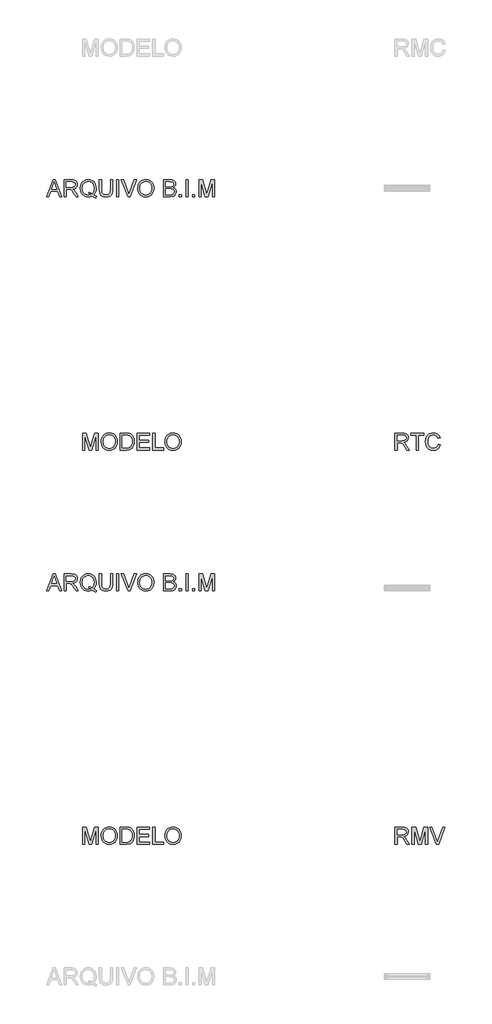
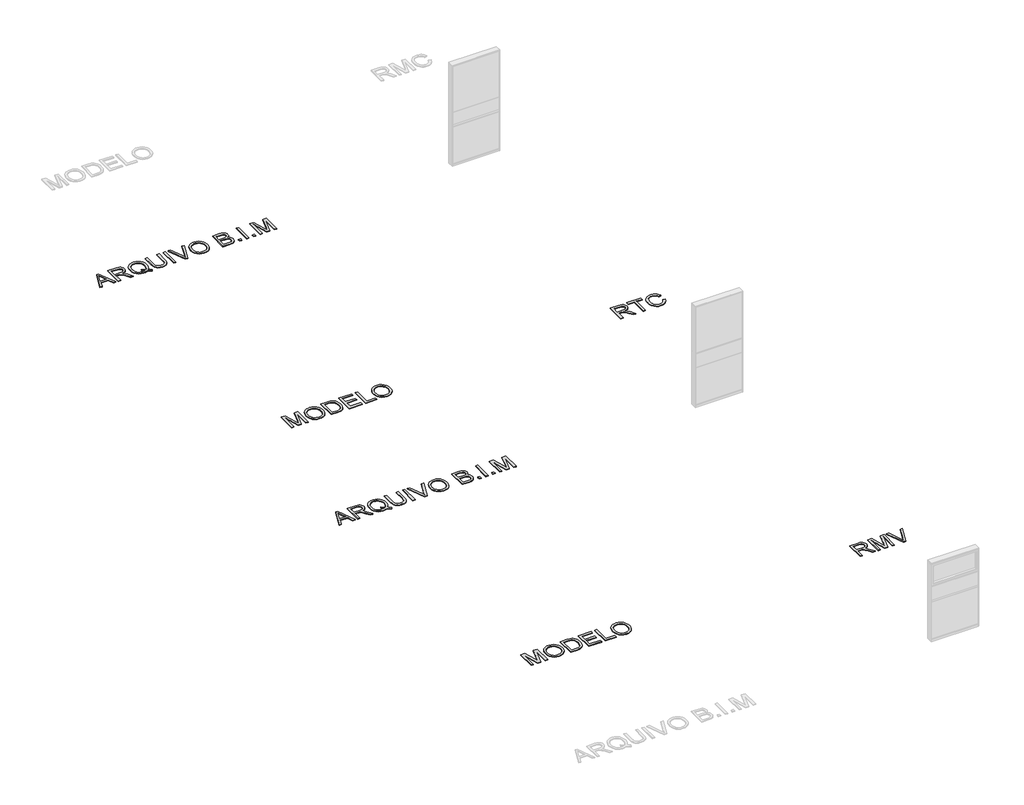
# One storey, part 8 of 15: 6 proxies.
"""IFC4 building model written with IfcOpenShell, lengths in millimetres."""

from ifc_helpers import new_model, si_unit, origin, origin_with_axes, place, context, project, spatial, polyline, outline, extrude, element, save

model = new_model("IFC4")

# Units and contexts
model_context = context("Model", 3, world=origin())
ifc_project = project(units=[si_unit("LENGTHUNIT", "METRE", prefix="MILLI")], contexts=[model_context])

# Site, building, storey
site = spatial("IfcSite", under=ifc_project)
building = spatial("IfcBuilding", under=site)
storey = spatial("IfcBuildingStorey", under=building, Name="Marelli - Linha REASONS - Planta Baixa", Elevation=0.0)

# Proxies
placement = place(None, origin())
element("IfcBuildingElementProxy", 1, Name="300mm Arial", ObjectType="300mm Arial", at=placement, inside=storey, context=model_context, shape_type="SweptSolid", body=[
    extrude(outline(polyline([(9390.580402, -84280.5663201), (9510.8778144, -83979.1973896), (9542.9571244, -83979.1973896), (9663.2545368, -84280.5663201), (9623.449705, -84280.5663201), (9588.9423738, -84186.3885293), (9464.8189886, -84186.3885293), (9430.3852339, -84280.5663201), (9390.580402, -84280.5663201)]), holes=[polyline([(9478.6513517, -84148.717413), (9575.1835872, -84148.717413), (9548.0338959, -84074.6259792), (9526.9174694, -84016.8685059), (9508.1554877, -84068.1512561), (9478.6513517, -84148.717413)])]), origin_with_axes(), (0.0, 0.0, 1.0), 10.0),
    extrude(outline(polyline([(9703.5008271, -84280.5663201), (9703.5008271, -83979.1973896), (9833.3631714, -83979.1973896), (9868.2659757, -83981.2299376), (9893.6590304, -83987.3275817), (9912.2186771, -83998.5847708), (9926.6212572, -84016.0959537), (9935.8642923, -84037.8101885), (9938.945304, -84061.6765329), (9933.8409413, -84091.3646099), (9918.5278533, -84115.9759154), (9906.9280741, -84126.0052983), (9892.5461874, -84134.0205273), (9855.4360911, -84144.0085235), (9876.8468232, -84160.1217548), (9907.3810288, -84198.8965171), (9957.6337094, -84280.5663201), (9913.855752, -84280.5663201), (9874.6395313, -84218.0999573), (9846.3126176, -84176.750021), (9826.4102017, -84157.2154871), (9808.4943485, -84150.0417882), (9786.642158, -84148.717413), (9741.1719434, -84148.717413), (9741.1719434, -84280.5663201), (9703.5008271, -84280.5663201)]), holes=[polyline([(9741.1719434, -84111.0462967), (9825.4904967, -84111.0462967), (9849.706329, -84109.7127245), (9868.4959019, -84105.7120078), (9882.6409647, -84098.7774322), (9892.9232664, -84088.6422832), (9899.1864574, -84076.3826157), (9901.2741877, -84063.0744845), (9897.2918651, -84044.6987789), (9885.3448973, -84029.8915286), (9864.7894908, -84020.1242616), (9834.9818522, -84016.8685059), (9741.1719434, -84016.8685059), (9741.1719434, -84111.0462967)])]), origin_with_axes(), (0.0, 0.0, 1.0), 10.0),
    extrude(outline(polyline([(10231.2643374, -84244.4403081), (10255.5997314, -84263.036743), (10277.9853508, -84275.8574305), (10267.8318077, -84303.4485802), (10236.7641732, -84289.0460001), (10205.8069033, -84268.205485), (10170.9500843, -84281.0077785), (10132.5983863, -84285.2752096), (10094.0627473, -84280.3547879), (10059.2427164, -84265.5935229), (10030.0788713, -84241.9203165), (10008.5117893, -84210.2640708), (9995.185264, -84172.3630282), (9990.7430889, -84129.9554312), (9995.176067, -84087.511046), (10008.4750011, -84049.0581805), (10029.9593096, -84016.9512794), (10058.9484108, -83993.5447874), (10093.639683, -83979.2525719), (10132.2305043, -83974.4885001), (10171.1248282, -83979.3629365), (10205.9908443, -83993.9862458), (10234.9339603, -84017.3835407), (10256.0595839, -84048.5799339), (10268.9722419, -84085.9199564), (10273.2764612, -84127.7481393), (10270.6644991, -84162.5313819), (10262.8286126, -84193.5990164), (10249.7136194, -84220.9142546), (10231.2643374, -84244.4403081)]), holes=[polyline([(10142.9726585, -84194.3347804), (10174.6472983, -84206.3093393), (10200.215097, -84222.9559996), (10215.6983305, -84205.4816049), (10226.7577829, -84184.1076609), (10233.3934544, -84158.8341679), (10235.6053449, -84129.6611256), (10232.478348, -84096.5057608), (10223.0973571, -84067.8201623), (10207.6922985, -84044.3308969), (10186.4930986, -84026.7645316), (10160.934497, -84015.8108452), (10132.4512335, -84012.1596164), (10110.966925, -84014.0059242), (10091.3956028, -84019.5448474), (10073.7372671, -84028.7763863), (10057.9919177, -84041.7005406), (10045.0516685, -84058.2897193), (10035.8086334, -84078.5163313), (10030.2628123, -84102.3803764), (10028.4142052, -84129.8818548), (10030.2421189, -84156.6659634), (10035.7258599, -84180.1437324), (10044.8654282, -84200.3151621), (10057.6608239, -84217.1802523), (10073.2981079, -84230.4906827), (10090.9633415, -84239.9981331), (10110.6565245, -84245.7026032), (10132.3776571, -84247.6040933), (10153.2917485, -84245.6727128), (10172.918253, -84239.8785714), (10153.6228423, -84229.853787), (10133.2605739, -84223.1767288), (10142.9726585, -84194.3347804)])]), origin_with_axes(), (0.0, 0.0, 1.0), 10.0),
    extrude(outline(polyline([(10527.5564963, -83979.1973896), (10565.2276126, -83979.1973896), (10565.2276126, -84153.0584205), (10562.6708327, -84193.7737604), (10555.0004931, -84225.1265034), (10540.6714894, -84249.3147446), (10518.1387172, -84268.5365788), (10487.3469942, -84281.0905519), (10448.2411381, -84285.2752096), (10409.9906077, -84281.6331779), (10379.4104168, -84270.7070826), (10356.4913685, -84252.8740029), (10341.2242657, -84228.5110178), (10332.6434182, -84195.8338995), (10329.7831357, -84153.0584205), (10329.7831357, -83979.1973896), (10367.454252, -83979.1973896), (10367.454252, -84151.7340454), (10369.3120561, -84185.588386), (10374.8854683, -84209.1604248), (10384.9838291, -84225.4851883), (10400.4164788, -84237.597703), (10420.5396239, -84245.1024957), (10444.709471, -84247.6040933), (10483.0243808, -84242.6560805), (10497.3671801, -84236.4710644), (10508.500209, -84227.812042), (10516.8373347, -84215.6351479), (10522.7924245, -84198.8965171), (10527.5564963, -84151.7340454), (10527.5564963, -83979.1973896)])), origin_with_axes(), (0.0, 0.0, 1.0), 10.0),
    extrude(outline(polyline([(10635.8609557, -84280.5663201), (10635.8609557, -83979.1973896), (10673.532072, -83979.1973896), (10673.532072, -84280.5663201), (10635.8609557, -84280.5663201)])), origin_with_axes(), (0.0, 0.0, 1.0), 10.0),
    extrude(outline(polyline([(10837.9017474, -84280.5663201), (10717.972217, -83979.1973896), (10758.2920837, -83979.1973896), (10838.563935, -84196.3213432), (10854.8243192, -84245.2496485), (10870.8639742, -84196.3213432), (10951.3565547, -83979.1973896), (10991.6764214, -83979.1973896), (10876.8236625, -84280.5663201), (10837.9017474, -84280.5663201)])), origin_with_axes(), (0.0, 0.0, 1.0), 10.0),
    extrude(outline(polyline([(11012.5721187, -84133.8549804), (11015.0829134, -84098.5061192), (11022.6152972, -84067.213157), (11035.1692703, -84039.9760937), (11052.7448326, -84016.7949295), (11074.288922, -83998.2858666), (11098.7484761, -83985.0651074), (11126.1234951, -83977.1326519), (11156.4139789, -83974.4885001), (11195.9428992, -83979.454907), (11231.3883295, -83994.3541278), (11260.8188891, -84018.1376988), (11282.3031976, -84049.7571563), (11295.4365848, -84087.68579), (11299.8143806, -84130.3968896), (11295.2066586, -84173.6782064), (11281.3834926, -84212.140269), (11259.1082378, -84243.8149088), (11229.1442493, -84266.733957), (11194.0023217, -84280.6398965), (11156.1932497, -84285.2752096), (11116.057324, -84280.1524528), (11080.4095587, -84264.7841825), (11051.0525754, -84240.5591531), (11029.7889961, -84208.8661192), (11016.8763381, -84172.3998164), (11012.5721187, -84133.8549804)]), holes=[polyline([(11050.2432351, -84134.2228624), (11052.126331, -84159.1974513), (11057.7756189, -84181.3669401), (11067.1910987, -84200.7313286), (11080.3727705, -84217.2906169), (11096.3963306, -84230.5527628), (11114.3374757, -84240.0257242), (11134.1962056, -84245.709501), (11155.9725205, -84247.6040933), (11178.1213158, -84245.6911069), (11198.2145706, -84239.9521478), (11216.2522846, -84230.3872159), (11232.2344581, -84216.9963113), (11245.3195608, -84200.0875351), (11254.6660627, -84179.9689885), (11260.2739639, -84156.6406715), (11262.1432643, -84130.102584), (11258.9426909, -84096.7540812), (11249.3409708, -84067.9305269), (11233.5864244, -84044.358488), (11211.9273719, -84026.7645316), (11185.7985532, -84015.8108452), (11156.6347081, -84012.1596164), (11135.6148506, -84013.9185522), (11116.1125063, -84019.1953595), (11098.1276752, -84027.9900385), (11081.6603574, -84040.302589), (11067.9153664, -84056.7262208), (11058.0975156, -84077.8541437), (11052.2068052, -84103.6863575), (11050.2432351, -84134.2228624)])]), origin_with_axes(), (0.0, 0.0, 1.0), 10.0),
    extrude(outline(polyline([(11469.334404, -84280.5663201), (11469.334404, -83979.1973896), (11584.3343156, -83979.1973896), (11615.9629702, -83981.4138786), (11640.6570491, -83988.0633457), (11659.5845778, -83999.3113377), (11673.9135815, -84015.3234015), (11682.9358874, -84034.1589597), (11685.9433227, -84053.8774346), (11683.414134, -84072.0232141), (11675.8265679, -84089.0837416), (11663.125442, -84104.0105535), (11645.2555741, -84115.7551862), (11666.6019268, -84126.9020107), (11682.3748674, -84143.8613707), (11692.1145432, -84165.5112261), (11695.3611018, -84190.7295368), (11693.1446128, -84211.7447958), (11686.4951457, -84231.2333445), (11676.5715289, -84247.8064284), (11664.5325906, -84260.0752929), (11649.7897196, -84268.9596431), (11631.7543048, -84275.3791839), (11583.4513989, -84280.5663201), (11469.334404, -84280.5663201)]), holes=[polyline([(11507.0055203, -84101.6285176), (11575.7994534, -84101.6285176), (11615.9721672, -84098.3911561), (11630.0344565, -84092.8085468), (11640.1420143, -84084.4484284), (11646.2396584, -84073.4395597), (11648.2722064, -84059.9106994), (11646.3776141, -84046.7773121), (11640.6938373, -84035.3361821), (11631.4783933, -84026.4058467), (11618.9887996, -84020.8048433), (11570.575529, -84016.8685059), (11507.0055203, -84016.8685059), (11507.0055203, -84101.6285176)]), polyline([(11507.0055203, -84242.8952038), (11584.2607393, -84242.8952038), (11612.2197709, -84241.4236758), (11635.8745832, -84233.2199073), (11651.5463562, -84216.4812765), (11656.1540782, -84204.6538704), (11657.6899855, -84191.0974188), (11655.8873637, -84175.3520694), (11650.4794984, -84161.814012), (11641.0341282, -84151.2282076), (11627.1189917, -84144.3396173), (11607.4097138, -84140.5596298), (11580.5819193, -84139.2996339), (11507.0055203, -84139.2996339), (11507.0055203, -84242.8952038)])]), origin_with_axes(), (0.0, 0.0, 1.0), 10.0),
    extrude(outline(polyline([(11751.8677763, -84280.5663201), (11751.8677763, -84242.8952038), (11789.5388926, -84242.8952038), (11789.5388926, -84280.5663201), (11751.8677763, -84280.5663201)])), origin_with_axes(), (0.0, 0.0, 1.0), 10.0),
    extrude(outline(polyline([(11869.5900147, -84280.5663201), (11869.5900147, -83979.1973896), (11907.261131, -83979.1973896), (11907.261131, -84280.5663201), (11869.5900147, -84280.5663201)])), origin_with_axes(), (0.0, 0.0, 1.0), 10.0),
    extrude(outline(polyline([(11987.3122532, -84280.5663201), (11987.3122532, -84242.8952038), (12024.9833695, -84242.8952038), (12024.9833695, -84280.5663201), (11987.3122532, -84280.5663201)])), origin_with_axes(), (0.0, 0.0, 1.0), 10.0),
    extrude(outline(polyline([(12100.3256021, -84280.5663201), (12100.3256021, -83979.1973896), (12165.1464096, -83979.1973896), (12226.803432, -84191.6124536), (12239.2378435, -84235.9790223), (12252.7023245, -84187.9336337), (12313.3292773, -83979.1973896), (12378.1500848, -83979.1973896), (12378.1500848, -84280.5663201), (12340.4789685, -84280.5663201), (12340.4789685, -84016.8685059), (12264.7688539, -84280.5663201), (12213.706833, -84280.5663201), (12137.9967184, -84016.8685059), (12137.9967184, -84280.5663201), (12100.3256021, -84280.5663201)])), origin_with_axes(), (0.0, 0.0, 1.0), 10.0),
])
element("IfcBuildingElementProxy", 2, Name="300mm Arial", ObjectType="300mm Arial", at=placement, inside=storey, context=model_context, shape_type="SweptSolid", body=[
    extrude(outline(polyline([(10033.1230948, -81780.5663201), (10033.1230948, -81479.1973896), (10097.9439023, -81479.1973896), (10159.6009247, -81691.6124536), (10172.0353362, -81735.9790223), (10185.4998172, -81687.9336337), (10246.12677, -81479.1973896), (10310.9475775, -81479.1973896), (10310.9475775, -81780.5663201), (10273.2764612, -81780.5663201), (10273.2764612, -81516.8685059), (10197.5663466, -81780.5663201), (10146.5043257, -81780.5663201), (10070.7942111, -81516.8685059), (10070.7942111, -81780.5663201), (10033.1230948, -81780.5663201)])), origin_with_axes(), (0.0, 0.0, 1.0), 10.0),
    extrude(outline(polyline([(10362.7453625, -81633.8549804), (10365.2561571, -81598.5061192), (10372.7885409, -81567.213157), (10385.342514, -81539.9760937), (10402.9180763, -81516.7949295), (10424.4621657, -81498.2858666), (10448.9217198, -81485.0651074), (10476.2967388, -81477.1326519), (10506.5872226, -81474.4885001), (10546.116143, -81479.454907), (10581.5615732, -81494.3541278), (10610.9921328, -81518.1376988), (10632.4764413, -81549.7571563), (10645.6098286, -81587.68579), (10649.9876243, -81630.3968896), (10645.3799023, -81673.6782064), (10631.5567363, -81712.140269), (10609.2814815, -81743.8149088), (10579.317493, -81766.733957), (10544.1755654, -81780.6398965), (10506.3664934, -81785.2752096), (10466.2305677, -81780.1524528), (10430.5828024, -81764.7841825), (10401.2258192, -81740.5591531), (10379.9622398, -81708.8661192), (10367.0495818, -81672.3998164), (10362.7453625, -81633.8549804)]), holes=[polyline([(10400.4164788, -81634.2228624), (10402.2995747, -81659.1974513), (10407.9488626, -81681.3669401), (10417.3643424, -81700.7313286), (10430.5460142, -81717.2906169), (10446.5695743, -81730.5527628), (10464.5107194, -81740.0257242), (10484.3694493, -81745.709501), (10506.1457642, -81747.6040933), (10528.2945596, -81745.6911069), (10548.3878143, -81739.9521478), (10566.4255284, -81730.3872159), (10582.4077018, -81716.9963113), (10595.4928045, -81700.0875351), (10604.8393064, -81679.9689885), (10610.4472076, -81656.6406715), (10612.316508, -81630.102584), (10609.1159346, -81596.7540812), (10599.5142146, -81567.9305269), (10583.7596681, -81544.358488), (10562.1006157, -81526.7645316), (10535.9717969, -81515.8108452), (10506.8079518, -81512.1596164), (10485.7880943, -81513.9185522), (10466.28575, -81519.1953595), (10448.300919, -81527.9900385), (10431.8336012, -81540.302589), (10418.0886101, -81556.7262208), (10408.2707594, -81577.8541437), (10402.3800489, -81603.6863575), (10400.4164788, -81634.2228624)])]), origin_with_axes(), (0.0, 0.0, 1.0), 10.0),
    extrude(outline(polyline([(10701.7854092, -81780.5663201), (10701.7854092, -81479.1973896), (10805.7488611, -81479.1973896), (10859.5332088, -81483.5383972), (10883.555903, -81491.9077126), (10903.826201, -81505.0962821), (10924.666716, -81528.0521186), (10939.5107545, -81556.5997614), (10948.3951047, -81590.1873876), (10951.3565547, -81628.2631741), (10949.3515979, -81660.6091985), (10943.3367273, -81689.0740679), (10934.1764656, -81713.3082943), (10922.7353355, -81732.9623899), (10909.5651601, -81748.477813), (10895.2177623, -81760.2960221), (10878.745846, -81769.0608107), (10859.202115, -81775.4159721), (10810.7520562, -81780.5663201), (10701.7854092, -81780.5663201)]), holes=[polyline([(10739.4565255, -81742.8952038), (10806.1167431, -81742.8952038), (10833.6894986, -81741.5340404), (10854.60359, -81737.4505502), (10870.3857276, -81730.8838566), (10882.5626217, -81722.0730828), (10895.6500236, -81705.7667134), (10905.48167, -81684.6594839), (10911.6344963, -81658.6594239), (10913.6854384, -81627.6745629), (10909.6663276, -81586.6189322), (10897.6089953, -81556.3054558), (10879.7943096, -81535.4833349), (10858.5031392, -81522.9017706), (10836.8348897, -81518.3768221), (10805.0866735, -81516.8685059), (10739.4565255, -81516.8685059), (10739.4565255, -81742.8952038)])]), origin_with_axes(), (0.0, 0.0, 1.0), 10.0),
    extrude(outline(polyline([(11003.1543397, -81780.5663201), (11003.1543397, -81479.1973896), (11219.7632584, -81479.1973896), (11219.7632584, -81516.8685059), (11040.825456, -81516.8685059), (11040.825456, -81606.3374072), (11210.3454794, -81606.3374072), (11210.3454794, -81644.0085235), (11040.825456, -81644.0085235), (11040.825456, -81742.8952038), (11224.472148, -81742.8952038), (11224.472148, -81780.5663201), (11003.1543397, -81780.5663201)])), origin_with_axes(), (0.0, 0.0, 1.0), 10.0),
    extrude(outline(polyline([(11280.9788224, -81780.5663201), (11280.9788224, -81479.1973896), (11318.6499387, -81479.1973896), (11318.6499387, -81742.8952038), (11469.334404, -81742.8952038), (11469.334404, -81780.5663201), (11280.9788224, -81780.5663201)])), origin_with_axes(), (0.0, 0.0, 1.0), 10.0),
    extrude(outline(polyline([(11497.5877412, -81633.8549804), (11500.0985358, -81598.5061192), (11507.6309197, -81567.213157), (11520.1848927, -81539.9760937), (11537.7604551, -81516.7949295), (11559.3045444, -81498.2858666), (11583.7640986, -81485.0651074), (11611.1391175, -81477.1326519), (11641.4296013, -81474.4885001), (11680.9585217, -81479.454907), (11716.4039519, -81494.3541278), (11745.8345115, -81518.1376988), (11767.3188201, -81549.7571563), (11780.4522073, -81587.68579), (11784.830003, -81630.3968896), (11780.222281, -81673.6782064), (11766.3991151, -81712.140269), (11744.1238603, -81743.8149088), (11714.1598717, -81766.733957), (11679.0179442, -81780.6398965), (11641.2088721, -81785.2752096), (11601.0729464, -81780.1524528), (11565.4251811, -81764.7841825), (11536.0681979, -81740.5591531), (11514.8046186, -81708.8661192), (11501.8919605, -81672.3998164), (11497.5877412, -81633.8549804)]), holes=[polyline([(11535.2588575, -81634.2228624), (11537.1419535, -81659.1974513), (11542.7912413, -81681.3669401), (11552.2067212, -81700.7313286), (11565.3883929, -81717.2906169), (11581.4119531, -81730.5527628), (11599.3530981, -81740.0257242), (11619.2118281, -81745.709501), (11640.9881429, -81747.6040933), (11663.1369383, -81745.6911069), (11683.230193, -81739.9521478), (11701.2679071, -81730.3872159), (11717.2500805, -81716.9963113), (11730.3351832, -81700.0875351), (11739.6816852, -81679.9689885), (11745.2895863, -81656.6406715), (11747.1588867, -81630.102584), (11743.9583134, -81596.7540812), (11734.3565933, -81567.9305269), (11718.6020468, -81544.358488), (11696.9429944, -81526.7645316), (11670.8141757, -81515.8108452), (11641.6503305, -81512.1596164), (11620.630473, -81513.9185522), (11601.1281287, -81519.1953595), (11583.1432977, -81527.9900385), (11566.6759799, -81540.302589), (11552.9309888, -81556.7262208), (11543.1131381, -81577.8541437), (11537.2224276, -81603.6863575), (11535.2588575, -81634.2228624)])]), origin_with_axes(), (0.0, 0.0, 1.0), 10.0),
])
element("IfcBuildingElementProxy", 3, Name="300mm Arial", ObjectType="300mm Arial", at=placement, inside=storey, context=model_context, shape_type="SweptSolid", body=[
    extrude(outline(polyline([(9390.580402, -77280.5663201), (9510.8778144, -76979.1973896), (9542.9571244, -76979.1973896), (9663.2545368, -77280.5663201), (9623.449705, -77280.5663201), (9588.9423738, -77186.3885293), (9464.8189886, -77186.3885293), (9430.3852339, -77280.5663201), (9390.580402, -77280.5663201)]), holes=[polyline([(9478.6513517, -77148.717413), (9575.1835872, -77148.717413), (9548.0338959, -77074.6259792), (9526.9174694, -77016.8685059), (9508.1554877, -77068.1512561), (9478.6513517, -77148.717413)])]), origin_with_axes(), (0.0, 0.0, 1.0), 10.0),
    extrude(outline(polyline([(9703.5008271, -77280.5663201), (9703.5008271, -76979.1973896), (9833.3631714, -76979.1973896), (9868.2659757, -76981.2299376), (9893.6590304, -76987.3275817), (9912.2186771, -76998.5847708), (9926.6212572, -77016.0959537), (9935.8642923, -77037.8101885), (9938.945304, -77061.6765329), (9933.8409413, -77091.3646099), (9918.5278533, -77115.9759154), (9906.9280741, -77126.0052983), (9892.5461874, -77134.0205273), (9855.4360911, -77144.0085235), (9876.8468232, -77160.1217548), (9907.3810288, -77198.8965171), (9957.6337094, -77280.5663201), (9913.855752, -77280.5663201), (9874.6395313, -77218.0999573), (9846.3126176, -77176.750021), (9826.4102017, -77157.2154871), (9808.4943485, -77150.0417882), (9786.642158, -77148.717413), (9741.1719434, -77148.717413), (9741.1719434, -77280.5663201), (9703.5008271, -77280.5663201)]), holes=[polyline([(9741.1719434, -77111.0462967), (9825.4904967, -77111.0462967), (9849.706329, -77109.7127245), (9868.4959019, -77105.7120078), (9882.6409647, -77098.7774322), (9892.9232664, -77088.6422832), (9899.1864574, -77076.3826157), (9901.2741877, -77063.0744845), (9897.2918651, -77044.6987789), (9885.3448973, -77029.8915286), (9864.7894908, -77020.1242616), (9834.9818522, -77016.8685059), (9741.1719434, -77016.8685059), (9741.1719434, -77111.0462967)])]), origin_with_axes(), (0.0, 0.0, 1.0), 10.0),
    extrude(outline(polyline([(10231.2643374, -77244.4403081), (10255.5997314, -77263.036743), (10277.9853508, -77275.8574305), (10267.8318077, -77303.4485802), (10236.7641732, -77289.0460001), (10205.8069033, -77268.205485), (10170.9500843, -77281.0077785), (10132.5983863, -77285.2752096), (10094.0627473, -77280.3547879), (10059.2427164, -77265.5935229), (10030.0788713, -77241.9203165), (10008.5117893, -77210.2640708), (9995.185264, -77172.3630282), (9990.7430889, -77129.9554312), (9995.176067, -77087.511046), (10008.4750011, -77049.0581805), (10029.9593096, -77016.9512794), (10058.9484108, -76993.5447874), (10093.639683, -76979.2525719), (10132.2305043, -76974.4885001), (10171.1248282, -76979.3629365), (10205.9908443, -76993.9862458), (10234.9339603, -77017.3835407), (10256.0595839, -77048.5799339), (10268.9722419, -77085.9199564), (10273.2764612, -77127.7481393), (10270.6644991, -77162.5313819), (10262.8286126, -77193.5990164), (10249.7136194, -77220.9142546), (10231.2643374, -77244.4403081)]), holes=[polyline([(10142.9726585, -77194.3347804), (10174.6472983, -77206.3093393), (10200.215097, -77222.9559996), (10215.6983305, -77205.4816049), (10226.7577829, -77184.1076609), (10233.3934544, -77158.8341679), (10235.6053449, -77129.6611256), (10232.478348, -77096.5057608), (10223.0973571, -77067.8201623), (10207.6922985, -77044.3308969), (10186.4930986, -77026.7645316), (10160.934497, -77015.8108452), (10132.4512335, -77012.1596164), (10110.966925, -77014.0059242), (10091.3956028, -77019.5448474), (10073.7372671, -77028.7763863), (10057.9919177, -77041.7005406), (10045.0516685, -77058.2897193), (10035.8086334, -77078.5163313), (10030.2628123, -77102.3803764), (10028.4142052, -77129.8818548), (10030.2421189, -77156.6659634), (10035.7258599, -77180.1437324), (10044.8654282, -77200.3151621), (10057.6608239, -77217.1802523), (10073.2981079, -77230.4906827), (10090.9633415, -77239.9981331), (10110.6565245, -77245.7026032), (10132.3776571, -77247.6040933), (10153.2917485, -77245.6727128), (10172.918253, -77239.8785714), (10153.6228423, -77229.853787), (10133.2605739, -77223.1767288), (10142.9726585, -77194.3347804)])]), origin_with_axes(), (0.0, 0.0, 1.0), 10.0),
    extrude(outline(polyline([(10527.5564963, -76979.1973896), (10565.2276126, -76979.1973896), (10565.2276126, -77153.0584205), (10562.6708327, -77193.7737604), (10555.0004931, -77225.1265034), (10540.6714894, -77249.3147446), (10518.1387172, -77268.5365788), (10487.3469942, -77281.0905519), (10448.2411381, -77285.2752096), (10409.9906077, -77281.6331779), (10379.4104168, -77270.7070826), (10356.4913685, -77252.8740029), (10341.2242657, -77228.5110178), (10332.6434182, -77195.8338995), (10329.7831357, -77153.0584205), (10329.7831357, -76979.1973896), (10367.454252, -76979.1973896), (10367.454252, -77151.7340454), (10369.3120561, -77185.588386), (10374.8854683, -77209.1604248), (10384.9838291, -77225.4851883), (10400.4164788, -77237.597703), (10420.5396239, -77245.1024957), (10444.709471, -77247.6040933), (10483.0243808, -77242.6560805), (10497.3671801, -77236.4710644), (10508.500209, -77227.812042), (10516.8373347, -77215.6351479), (10522.7924245, -77198.8965171), (10527.5564963, -77151.7340454), (10527.5564963, -76979.1973896)])), origin_with_axes(), (0.0, 0.0, 1.0), 10.0),
    extrude(outline(polyline([(10635.8609557, -77280.5663201), (10635.8609557, -76979.1973896), (10673.532072, -76979.1973896), (10673.532072, -77280.5663201), (10635.8609557, -77280.5663201)])), origin_with_axes(), (0.0, 0.0, 1.0), 10.0),
    extrude(outline(polyline([(10837.9017474, -77280.5663201), (10717.972217, -76979.1973896), (10758.2920837, -76979.1973896), (10838.563935, -77196.3213432), (10854.8243192, -77245.2496485), (10870.8639742, -77196.3213432), (10951.3565547, -76979.1973896), (10991.6764214, -76979.1973896), (10876.8236625, -77280.5663201), (10837.9017474, -77280.5663201)])), origin_with_axes(), (0.0, 0.0, 1.0), 10.0),
    extrude(outline(polyline([(11012.5721187, -77133.8549804), (11015.0829134, -77098.5061192), (11022.6152972, -77067.213157), (11035.1692703, -77039.9760937), (11052.7448326, -77016.7949295), (11074.288922, -76998.2858666), (11098.7484761, -76985.0651074), (11126.1234951, -76977.1326519), (11156.4139789, -76974.4885001), (11195.9428992, -76979.454907), (11231.3883295, -76994.3541278), (11260.8188891, -77018.1376988), (11282.3031976, -77049.7571563), (11295.4365848, -77087.68579), (11299.8143806, -77130.3968896), (11295.2066586, -77173.6782064), (11281.3834926, -77212.140269), (11259.1082378, -77243.8149088), (11229.1442493, -77266.733957), (11194.0023217, -77280.6398965), (11156.1932497, -77285.2752096), (11116.057324, -77280.1524528), (11080.4095587, -77264.7841825), (11051.0525754, -77240.5591531), (11029.7889961, -77208.8661192), (11016.8763381, -77172.3998164), (11012.5721187, -77133.8549804)]), holes=[polyline([(11050.2432351, -77134.2228624), (11052.126331, -77159.1974513), (11057.7756189, -77181.3669401), (11067.1910987, -77200.7313286), (11080.3727705, -77217.2906169), (11096.3963306, -77230.5527628), (11114.3374757, -77240.0257242), (11134.1962056, -77245.709501), (11155.9725205, -77247.6040933), (11178.1213158, -77245.6911069), (11198.2145706, -77239.9521478), (11216.2522846, -77230.3872159), (11232.2344581, -77216.9963113), (11245.3195608, -77200.0875351), (11254.6660627, -77179.9689885), (11260.2739639, -77156.6406715), (11262.1432643, -77130.102584), (11258.9426909, -77096.7540812), (11249.3409708, -77067.9305269), (11233.5864244, -77044.358488), (11211.9273719, -77026.7645316), (11185.7985532, -77015.8108452), (11156.6347081, -77012.1596164), (11135.6148506, -77013.9185522), (11116.1125063, -77019.1953595), (11098.1276752, -77027.9900385), (11081.6603574, -77040.302589), (11067.9153664, -77056.7262208), (11058.0975156, -77077.8541437), (11052.2068052, -77103.6863575), (11050.2432351, -77134.2228624)])]), origin_with_axes(), (0.0, 0.0, 1.0), 10.0),
    extrude(outline(polyline([(11469.334404, -77280.5663201), (11469.334404, -76979.1973896), (11584.3343156, -76979.1973896), (11615.9629702, -76981.4138786), (11640.6570491, -76988.0633457), (11659.5845778, -76999.3113377), (11673.9135815, -77015.3234015), (11682.9358874, -77034.1589597), (11685.9433227, -77053.8774346), (11683.414134, -77072.0232141), (11675.8265679, -77089.0837416), (11663.125442, -77104.0105535), (11645.2555741, -77115.7551862), (11666.6019268, -77126.9020107), (11682.3748674, -77143.8613707), (11692.1145432, -77165.5112261), (11695.3611018, -77190.7295368), (11693.1446128, -77211.7447958), (11686.4951457, -77231.2333445), (11676.5715289, -77247.8064284), (11664.5325906, -77260.0752929), (11649.7897196, -77268.9596431), (11631.7543048, -77275.3791839), (11583.4513989, -77280.5663201), (11469.334404, -77280.5663201)]), holes=[polyline([(11507.0055203, -77101.6285176), (11575.7994534, -77101.6285176), (11615.9721672, -77098.3911561), (11630.0344565, -77092.8085468), (11640.1420143, -77084.4484284), (11646.2396584, -77073.4395597), (11648.2722064, -77059.9106994), (11646.3776141, -77046.7773121), (11640.6938373, -77035.3361821), (11631.4783933, -77026.4058467), (11618.9887996, -77020.8048433), (11570.575529, -77016.8685059), (11507.0055203, -77016.8685059), (11507.0055203, -77101.6285176)]), polyline([(11507.0055203, -77242.8952038), (11584.2607393, -77242.8952038), (11612.2197709, -77241.4236758), (11635.8745832, -77233.2199073), (11651.5463562, -77216.4812765), (11656.1540782, -77204.6538704), (11657.6899855, -77191.0974188), (11655.8873637, -77175.3520694), (11650.4794984, -77161.814012), (11641.0341282, -77151.2282076), (11627.1189917, -77144.3396173), (11607.4097138, -77140.5596298), (11580.5819193, -77139.2996339), (11507.0055203, -77139.2996339), (11507.0055203, -77242.8952038)])]), origin_with_axes(), (0.0, 0.0, 1.0), 10.0),
    extrude(outline(polyline([(11751.8677763, -77280.5663201), (11751.8677763, -77242.8952038), (11789.5388926, -77242.8952038), (11789.5388926, -77280.5663201), (11751.8677763, -77280.5663201)])), origin_with_axes(), (0.0, 0.0, 1.0), 10.0),
    extrude(outline(polyline([(11869.5900147, -77280.5663201), (11869.5900147, -76979.1973896), (11907.261131, -76979.1973896), (11907.261131, -77280.5663201), (11869.5900147, -77280.5663201)])), origin_with_axes(), (0.0, 0.0, 1.0), 10.0),
    extrude(outline(polyline([(11987.3122532, -77280.5663201), (11987.3122532, -77242.8952038), (12024.9833695, -77242.8952038), (12024.9833695, -77280.5663201), (11987.3122532, -77280.5663201)])), origin_with_axes(), (0.0, 0.0, 1.0), 10.0),
    extrude(outline(polyline([(12100.3256021, -77280.5663201), (12100.3256021, -76979.1973896), (12165.1464096, -76979.1973896), (12226.803432, -77191.6124536), (12239.2378435, -77235.9790223), (12252.7023245, -77187.9336337), (12313.3292773, -76979.1973896), (12378.1500848, -76979.1973896), (12378.1500848, -77280.5663201), (12340.4789685, -77280.5663201), (12340.4789685, -77016.8685059), (12264.7688539, -77280.5663201), (12213.706833, -77280.5663201), (12137.9967184, -77016.8685059), (12137.9967184, -77280.5663201), (12100.3256021, -77280.5663201)])), origin_with_axes(), (0.0, 0.0, 1.0), 10.0),
])
element("IfcBuildingElementProxy", 4, Name="300mm Arial", ObjectType="300mm Arial", at=placement, inside=storey, context=model_context, shape_type="SweptSolid", body=[
    extrude(outline(polyline([(10033.1230948, -88780.5663201), (10033.1230948, -88479.1973896), (10097.9439023, -88479.1973896), (10159.6009247, -88691.6124536), (10172.0353362, -88735.9790223), (10185.4998172, -88687.9336337), (10246.12677, -88479.1973896), (10310.9475775, -88479.1973896), (10310.9475775, -88780.5663201), (10273.2764612, -88780.5663201), (10273.2764612, -88516.8685059), (10197.5663466, -88780.5663201), (10146.5043257, -88780.5663201), (10070.7942111, -88516.8685059), (10070.7942111, -88780.5663201), (10033.1230948, -88780.5663201)])), origin_with_axes(), (0.0, 0.0, 1.0), 10.0),
    extrude(outline(polyline([(10362.7453625, -88633.8549804), (10365.2561571, -88598.5061192), (10372.7885409, -88567.213157), (10385.342514, -88539.9760937), (10402.9180763, -88516.7949295), (10424.4621657, -88498.2858666), (10448.9217198, -88485.0651074), (10476.2967388, -88477.1326519), (10506.5872226, -88474.4885001), (10546.116143, -88479.454907), (10581.5615732, -88494.3541278), (10610.9921328, -88518.1376988), (10632.4764413, -88549.7571563), (10645.6098286, -88587.68579), (10649.9876243, -88630.3968896), (10645.3799023, -88673.6782064), (10631.5567363, -88712.140269), (10609.2814815, -88743.8149088), (10579.317493, -88766.733957), (10544.1755654, -88780.6398965), (10506.3664934, -88785.2752096), (10466.2305677, -88780.1524528), (10430.5828024, -88764.7841825), (10401.2258192, -88740.5591531), (10379.9622398, -88708.8661192), (10367.0495818, -88672.3998164), (10362.7453625, -88633.8549804)]), holes=[polyline([(10400.4164788, -88634.2228624), (10402.2995747, -88659.1974513), (10407.9488626, -88681.3669401), (10417.3643424, -88700.7313286), (10430.5460142, -88717.2906169), (10446.5695743, -88730.5527628), (10464.5107194, -88740.0257242), (10484.3694493, -88745.709501), (10506.1457642, -88747.6040933), (10528.2945596, -88745.6911069), (10548.3878143, -88739.9521478), (10566.4255284, -88730.3872159), (10582.4077018, -88716.9963113), (10595.4928045, -88700.0875351), (10604.8393064, -88679.9689885), (10610.4472076, -88656.6406715), (10612.316508, -88630.102584), (10609.1159346, -88596.7540812), (10599.5142146, -88567.9305269), (10583.7596681, -88544.358488), (10562.1006157, -88526.7645316), (10535.9717969, -88515.8108452), (10506.8079518, -88512.1596164), (10485.7880943, -88513.9185522), (10466.28575, -88519.1953595), (10448.300919, -88527.9900385), (10431.8336012, -88540.302589), (10418.0886101, -88556.7262208), (10408.2707594, -88577.8541437), (10402.3800489, -88603.6863575), (10400.4164788, -88634.2228624)])]), origin_with_axes(), (0.0, 0.0, 1.0), 10.0),
    extrude(outline(polyline([(10701.7854092, -88780.5663201), (10701.7854092, -88479.1973896), (10805.7488611, -88479.1973896), (10859.5332088, -88483.5383972), (10883.555903, -88491.9077126), (10903.826201, -88505.0962821), (10924.666716, -88528.0521186), (10939.5107545, -88556.5997614), (10948.3951047, -88590.1873876), (10951.3565547, -88628.2631741), (10949.3515979, -88660.6091985), (10943.3367273, -88689.0740679), (10934.1764656, -88713.3082943), (10922.7353355, -88732.9623899), (10909.5651601, -88748.477813), (10895.2177623, -88760.2960221), (10878.745846, -88769.0608107), (10859.202115, -88775.4159721), (10810.7520562, -88780.5663201), (10701.7854092, -88780.5663201)]), holes=[polyline([(10739.4565255, -88742.8952038), (10806.1167431, -88742.8952038), (10833.6894986, -88741.5340404), (10854.60359, -88737.4505502), (10870.3857276, -88730.8838566), (10882.5626217, -88722.0730828), (10895.6500236, -88705.7667134), (10905.48167, -88684.6594839), (10911.6344963, -88658.6594239), (10913.6854384, -88627.6745629), (10909.6663276, -88586.6189322), (10897.6089953, -88556.3054558), (10879.7943096, -88535.4833349), (10858.5031392, -88522.9017706), (10836.8348897, -88518.3768221), (10805.0866735, -88516.8685059), (10739.4565255, -88516.8685059), (10739.4565255, -88742.8952038)])]), origin_with_axes(), (0.0, 0.0, 1.0), 10.0),
    extrude(outline(polyline([(11003.1543397, -88780.5663201), (11003.1543397, -88479.1973896), (11219.7632584, -88479.1973896), (11219.7632584, -88516.8685059), (11040.825456, -88516.8685059), (11040.825456, -88606.3374072), (11210.3454794, -88606.3374072), (11210.3454794, -88644.0085235), (11040.825456, -88644.0085235), (11040.825456, -88742.8952038), (11224.472148, -88742.8952038), (11224.472148, -88780.5663201), (11003.1543397, -88780.5663201)])), origin_with_axes(), (0.0, 0.0, 1.0), 10.0),
    extrude(outline(polyline([(11280.9788224, -88780.5663201), (11280.9788224, -88479.1973896), (11318.6499387, -88479.1973896), (11318.6499387, -88742.8952038), (11469.334404, -88742.8952038), (11469.334404, -88780.5663201), (11280.9788224, -88780.5663201)])), origin_with_axes(), (0.0, 0.0, 1.0), 10.0),
    extrude(outline(polyline([(11497.5877412, -88633.8549804), (11500.0985358, -88598.5061192), (11507.6309197, -88567.213157), (11520.1848927, -88539.9760937), (11537.7604551, -88516.7949295), (11559.3045444, -88498.2858666), (11583.7640986, -88485.0651074), (11611.1391175, -88477.1326519), (11641.4296013, -88474.4885001), (11680.9585217, -88479.454907), (11716.4039519, -88494.3541278), (11745.8345115, -88518.1376988), (11767.3188201, -88549.7571563), (11780.4522073, -88587.68579), (11784.830003, -88630.3968896), (11780.222281, -88673.6782064), (11766.3991151, -88712.140269), (11744.1238603, -88743.8149088), (11714.1598717, -88766.733957), (11679.0179442, -88780.6398965), (11641.2088721, -88785.2752096), (11601.0729464, -88780.1524528), (11565.4251811, -88764.7841825), (11536.0681979, -88740.5591531), (11514.8046186, -88708.8661192), (11501.8919605, -88672.3998164), (11497.5877412, -88633.8549804)]), holes=[polyline([(11535.2588575, -88634.2228624), (11537.1419535, -88659.1974513), (11542.7912413, -88681.3669401), (11552.2067212, -88700.7313286), (11565.3883929, -88717.2906169), (11581.4119531, -88730.5527628), (11599.3530981, -88740.0257242), (11619.2118281, -88745.709501), (11640.9881429, -88747.6040933), (11663.1369383, -88745.6911069), (11683.230193, -88739.9521478), (11701.2679071, -88730.3872159), (11717.2500805, -88716.9963113), (11730.3351832, -88700.0875351), (11739.6816852, -88679.9689885), (11745.2895863, -88656.6406715), (11747.1588867, -88630.102584), (11743.9583134, -88596.7540812), (11734.3565933, -88567.9305269), (11718.6020468, -88544.358488), (11696.9429944, -88526.7645316), (11670.8141757, -88515.8108452), (11641.6503305, -88512.1596164), (11620.630473, -88513.9185522), (11601.1281287, -88519.1953595), (11583.1432977, -88527.9900385), (11566.6759799, -88540.302589), (11552.9309888, -88556.7262208), (11543.1131381, -88577.8541437), (11537.2224276, -88603.6863575), (11535.2588575, -88634.2228624)])]), origin_with_axes(), (0.0, 0.0, 1.0), 10.0),
])
element("IfcBuildingElementProxy", 5, Name="300mm Arial", ObjectType="300mm Arial", at=placement, inside=storey, context=model_context, shape_type="SweptSolid", body=[
    extrude(outline(polyline([(15588.7720603, -81780.5663201), (15588.7720603, -81479.1973896), (15718.6344046, -81479.1973896), (15753.5372089, -81481.2299376), (15778.9302636, -81487.3275817), (15797.4899103, -81498.5847708), (15811.8924904, -81516.0959537), (15821.1355255, -81537.8101885), (15824.2165372, -81561.6765329), (15819.1121745, -81591.3646099), (15803.7990865, -81615.9759154), (15792.1993073, -81626.0052983), (15777.8174206, -81634.0205273), (15740.7073243, -81644.0085235), (15762.1180564, -81660.1217548), (15792.652262, -81698.8965171), (15842.9049426, -81780.5663201), (15799.1269851, -81780.5663201), (15759.9107645, -81718.0999573), (15731.5838508, -81676.750021), (15711.6814349, -81657.2154871), (15693.7655817, -81650.0417882), (15671.9133912, -81648.717413), (15626.4431766, -81648.717413), (15626.4431766, -81780.5663201), (15588.7720603, -81780.5663201)]), holes=[polyline([(15626.4431766, -81611.0462967), (15710.7617299, -81611.0462967), (15734.9775622, -81609.7127245), (15753.7671351, -81605.7120078), (15767.9121979, -81598.7774322), (15778.1944996, -81588.6422832), (15784.4576906, -81576.3826157), (15786.5454209, -81563.0744845), (15782.5630983, -81544.6987789), (15770.6161305, -81529.8915286), (15750.060724, -81520.1242616), (15720.2530854, -81516.8685059), (15626.4431766, -81516.8685059), (15626.4431766, -81611.0462967)])]), origin_with_axes(), (0.0, 0.0, 1.0), 10.0),
    extrude(outline(polyline([(15965.4832234, -81780.5663201), (15965.4832234, -81516.8685059), (15866.5965431, -81516.8685059), (15866.5965431, -81479.1973896), (16102.04102, -81479.1973896), (16102.04102, -81516.8685059), (16003.1543397, -81516.8685059), (16003.1543397, -81780.5663201), (15965.4832234, -81780.5663201)])), origin_with_axes(), (0.0, 0.0, 1.0), 10.0),
    extrude(outline(polyline([(16356.321055, -81673.4390831), (16393.9921713, -81683.1511677), (16386.5379624, -81706.5783531), (16376.6097471, -81727.0486868), (16364.2075253, -81744.5621691), (16349.3312971, -81759.1187997), (16332.3167549, -81770.5622291), (16313.4995908, -81778.7361071), (16292.879805, -81783.640434), (16270.4573974, -81785.2752096), (16226.7622134, -81780.3271968), (16192.0617442, -81765.4831583), (16165.4638759, -81741.2581289), (16146.0764948, -81708.1671434), (16134.2398916, -81669.2636224), (16130.2943572, -81627.6009865), (16134.7549264, -81583.6574821), (16148.136634, -81545.7104543), (16169.7405041, -81514.9647166), (16198.8675611, -81492.6250824), (16233.4116805, -81479.0226457), (16271.2667378, -81474.4885001), (16312.5706888, -81480.3562179), (16330.539425, -81487.6908652), (16346.719335, -81497.9593714), (16360.8437043, -81510.8904235), (16372.6458186, -81526.2127086), (16389.2832818, -81564.0309777), (16351.6121655, -81573.0072984), (16338.5523547, -81545.5357104), (16320.7100779, -81526.6909552), (16297.864606, -81515.7924511), (16269.7952098, -81512.1596164), (16237.4399883, -81516.1879242), (16210.8605141, -81528.2728478), (16190.6913838, -81547.1451941), (16177.5671936, -81571.5357704), (16170.3659035, -81599.1085259), (16167.9654735, -81627.5274101), (16170.8073619, -81662.3290468), (16179.3330272, -81692.421794), (16193.864366, -81716.6560205), (16214.7232751, -81733.8820949), (16239.7300537, -81744.1735937), (16266.705001, -81747.6040933), (16298.1497146, -81742.931992), (16324.3521097, -81728.9156879), (16344.1349639, -81705.702334), (16356.321055, -81673.4390831)])), origin_with_axes(), (0.0, 0.0, 1.0), 10.0),
])
element("IfcBuildingElementProxy", 6, Name="300mm Arial", ObjectType="300mm Arial", at=placement, inside=storey, context=model_context, shape_type="SweptSolid", body=[
    extrude(outline(polyline([(15588.7720603, -88780.5663201), (15588.7720603, -88479.1973896), (15718.6344046, -88479.1973896), (15753.5372089, -88481.2299376), (15778.9302636, -88487.3275817), (15797.4899103, -88498.5847708), (15811.8924904, -88516.0959537), (15821.1355255, -88537.8101885), (15824.2165372, -88561.6765329), (15819.1121745, -88591.3646099), (15803.7990865, -88615.9759154), (15792.1993073, -88626.0052983), (15777.8174206, -88634.0205273), (15740.7073243, -88644.0085235), (15762.1180564, -88660.1217548), (15792.652262, -88698.8965171), (15842.9049426, -88780.5663201), (15799.1269851, -88780.5663201), (15759.9107645, -88718.0999573), (15731.5838508, -88676.750021), (15711.6814349, -88657.2154871), (15693.7655817, -88650.0417882), (15671.9133912, -88648.717413), (15626.4431766, -88648.717413), (15626.4431766, -88780.5663201), (15588.7720603, -88780.5663201)]), holes=[polyline([(15626.4431766, -88611.0462967), (15710.7617299, -88611.0462967), (15734.9775622, -88609.7127245), (15753.7671351, -88605.7120078), (15767.9121979, -88598.7774322), (15778.1944996, -88588.6422832), (15784.4576906, -88576.3826157), (15786.5454209, -88563.0744845), (15782.5630983, -88544.6987789), (15770.6161305, -88529.8915286), (15750.060724, -88520.1242616), (15720.2530854, -88516.8685059), (15626.4431766, -88516.8685059), (15626.4431766, -88611.0462967)])]), origin_with_axes(), (0.0, 0.0, 1.0), 10.0),
    extrude(outline(polyline([(15890.1409908, -88780.5663201), (15890.1409908, -88479.1973896), (15954.9617983, -88479.1973896), (16016.6188207, -88691.6124536), (16029.0532321, -88735.9790223), (16042.5177132, -88687.9336337), (16103.144666, -88479.1973896), (16167.9654735, -88479.1973896), (16167.9654735, -88780.5663201), (16130.2943572, -88780.5663201), (16130.2943572, -88516.8685059), (16054.5842426, -88780.5663201), (16003.5222217, -88780.5663201), (15927.8121071, -88516.8685059), (15927.8121071, -88780.5663201), (15890.1409908, -88780.5663201)])), origin_with_axes(), (0.0, 0.0, 1.0), 10.0),
    extrude(outline(polyline([(16322.9173699, -88780.5663201), (16202.9878394, -88479.1973896), (16243.3077061, -88479.1973896), (16323.5795575, -88696.3213432), (16339.8399417, -88745.2496485), (16355.8795966, -88696.3213432), (16436.3721772, -88479.1973896), (16476.6920439, -88479.1973896), (16361.839285, -88780.5663201), (16322.9173699, -88780.5663201)])), origin_with_axes(), (0.0, 0.0, 1.0), 10.0),
])

save(model, "model.ifc")
